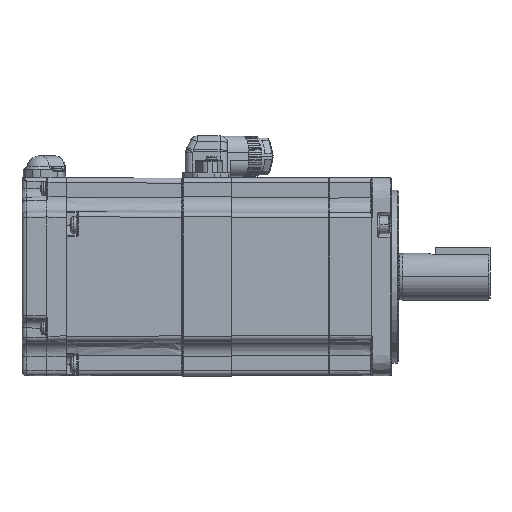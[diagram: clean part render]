
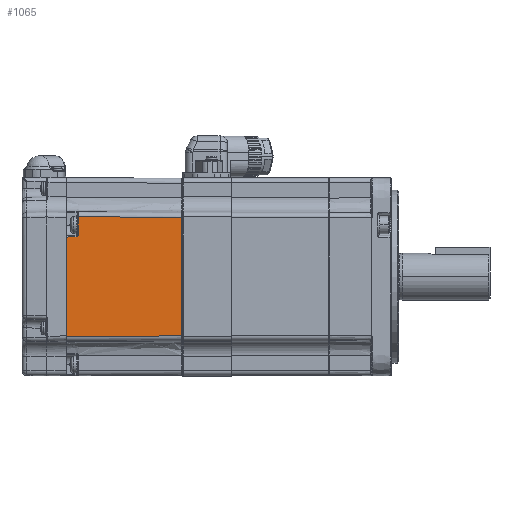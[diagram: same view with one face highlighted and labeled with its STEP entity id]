
A CAD part, top view. The second image highlights one B-rep face of the part: STEP entity #1065.
In plain terms, the highlighted planar face has unit normal (0.005, 0, 1).
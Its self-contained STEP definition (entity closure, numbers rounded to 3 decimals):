
#1065=ADVANCED_FACE('',(#8846),#8845,.T.);
#8845=PLANE('',#22061);
#8846=FACE_OUTER_BOUND('',#22062,.T.);
#22058=CARTESIAN_POINT('',(-136.175,-29.094,40.122));
#22059=DIRECTION('',(0.005,0.,1.));
#22060=DIRECTION('',(1.,0.,-0.005));
#22061=AXIS2_PLACEMENT_3D('',#22058,#22059,#22060);
#22062=EDGE_LOOP('',(#30394,#30395,#30396,#30397,#30398,#30399,#30400));
#30394=ORIENTED_EDGE('',*,*,#34795,.T.);
#30395=ORIENTED_EDGE('',*,*,#33843,.T.);
#30396=ORIENTED_EDGE('',*,*,#34796,.T.);
#30397=ORIENTED_EDGE('',*,*,#34797,.T.);
#30398=ORIENTED_EDGE('',*,*,#34798,.T.);
#30399=ORIENTED_EDGE('',*,*,#34799,.T.);
#30400=ORIENTED_EDGE('',*,*,#34155,.T.);
#33843=EDGE_CURVE('',#43909,#43902,#43910,.T.);
#34155=EDGE_CURVE('',#45951,#45762,#45958,.T.);
#34795=EDGE_CURVE('',#45762,#43909,#50290,.T.);
#34796=EDGE_CURVE('',#43902,#46144,#50296,.T.);
#34797=EDGE_CURVE('',#46144,#46075,#50302,.T.);
#34798=EDGE_CURVE('',#46075,#45938,#50308,.T.);
#34799=EDGE_CURVE('',#45938,#45951,#50314,.T.);
#43902=VERTEX_POINT('',#61351);
#43909=VERTEX_POINT('',#61355);
#43910=LINE('',#61356,#61357);
#45762=VERTEX_POINT('',#63749);
#45938=VERTEX_POINT('',#63884);
#45951=VERTEX_POINT('',#63892);
#45958=(BOUNDED_CURVE() B_SPLINE_CURVE(3,(#63897,#63898,#63899,#63900,#63901,#63902),.UNSPECIFIED.,.F.,.F.) B_SPLINE_CURVE_WITH_KNOTS((4,2,4),(0.,0.,0.001),.UNSPECIFIED.) CURVE() GEOMETRIC_REPRESENTATION_ITEM() RATIONAL_B_SPLINE_CURVE((1.,1.,1.,1.,1.,1.)) REPRESENTATION_ITEM('') );
#46075=VERTEX_POINT('',#64002);
#46144=VERTEX_POINT('',#64079);
#50290=LINE('',#66881,#66882);
#50296=LINE('',#66884,#66885);
#50302=LINE('',#66887,#66888);
#50308=LINE('',#66890,#66891);
#50314=LINE('',#66893,#66894);
#61351=CARTESIAN_POINT('',(-131.5,-24.247,40.097));
#61355=CARTESIAN_POINT('',(-131.5,16.021,40.097));
#61356=CARTESIAN_POINT('',(-131.5,16.021,40.097));
#61357=VECTOR('',#61358,40.269);
#61358=DIRECTION('',(0.,-1.,0.));
#63749=CARTESIAN_POINT('',(-127.201,16.096,40.075));
#63884=CARTESIAN_POINT('',(-126.799,24.223,40.073));
#63892=CARTESIAN_POINT('',(-126.799,16.73,40.073));
#63897=CARTESIAN_POINT('',(-126.799,16.73,40.073));
#63898=CARTESIAN_POINT('',(-126.799,16.599,40.073));
#63899=CARTESIAN_POINT('',(-126.852,16.476,40.073));
#63900=CARTESIAN_POINT('',(-127.004,16.267,40.074));
#63901=CARTESIAN_POINT('',(-127.104,16.18,40.074));
#63902=CARTESIAN_POINT('',(-127.201,16.096,40.075));
#64002=CARTESIAN_POINT('',(-84.747,24.003,39.853));
#64079=CARTESIAN_POINT('',(-84.747,-24.003,39.853));
#66881=CARTESIAN_POINT('',(-127.201,16.096,40.075));
#66882=VECTOR('',#66883,4.3);
#66883=DIRECTION('',(-1.,-0.017,0.005));
#66884=CARTESIAN_POINT('',(-131.5,-24.247,40.097));
#66885=VECTOR('',#66886,46.754);
#66886=DIRECTION('',(1.,0.005,-0.005));
#66887=CARTESIAN_POINT('',(-84.747,-24.003,39.853));
#66888=VECTOR('',#66889,48.005);
#66889=DIRECTION('',(0.,1.,0.));
#66890=CARTESIAN_POINT('',(-84.747,24.003,39.853));
#66891=VECTOR('',#66892,42.053);
#66892=DIRECTION('',(-1.,0.005,0.005));
#66893=CARTESIAN_POINT('',(-126.799,24.223,40.073));
#66894=VECTOR('',#66895,7.493);
#66895=DIRECTION('',(0.,-1.,0.));
